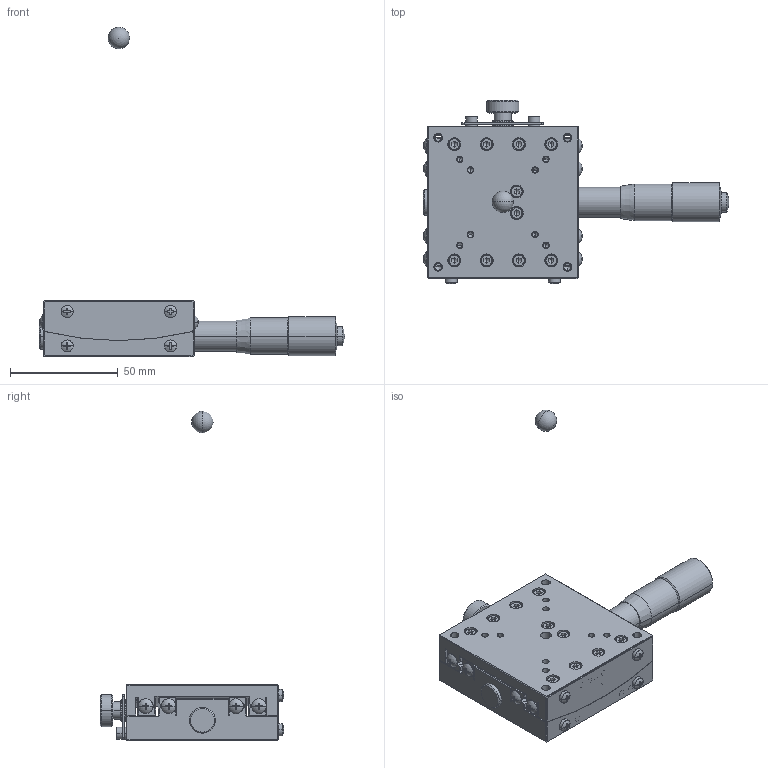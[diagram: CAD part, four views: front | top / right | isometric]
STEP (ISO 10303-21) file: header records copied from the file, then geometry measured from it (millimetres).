
FILE_DESCRIPTION (( 'STEP AP214' ), '1' );
FILE_NAME ('ST07A-C1B.STEP', '2007-01-19T02:23:12', ( ' ' ), ( ' ' ), 'SwSTEP 2.0', 'SolidWorks 2006052', '' );
FILE_SCHEMA (( 'AUTOMOTIVE_DESIGN' ));
Length unit declared in the file: millimetre
Products named in the file (6): MICROMETERHEAD(MHN4-25T)spindle-4; 002610-1020(3D); 002590-1130(3D)-4; ST07A-C1B-Part-1; ST07A-C1B; 002610-1011(3D)
Assembly tree (5 placements, depth 2):
  ST07A-C1B
    002590-1130(3D)-4
    002610-1020(3D)
    MICROMETERHEAD(MHN4-25T)spindle-4
    002610-1011(3D)
    ST07A-C1B-Part-1
Bounding box: 142 x 85.39 x 153 mm (x, y, z)
Volume: 124734.5 mm3; surface area: 58840.4 mm2
Topology: 5 solids, 48 shells, 1837 faces, 4239 edges, 2486 vertices
Faces by surface type: plane 763, cylinder 610, cone 432, sphere 32
Entity records: 54353 total; most frequent: CARTESIAN_POINT 12540, DIRECTION 9192, ORIENTED_EDGE 8228, EDGE_CURVE 4114, AXIS2_PLACEMENT_3D 3553, VERTEX_POINT 2483, VECTOR 2086, LINE 2086
